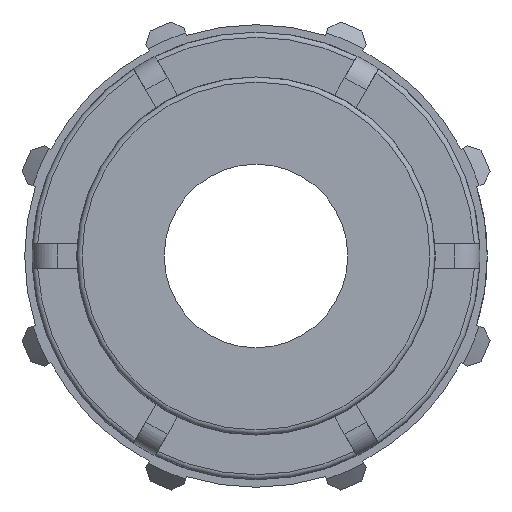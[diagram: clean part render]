
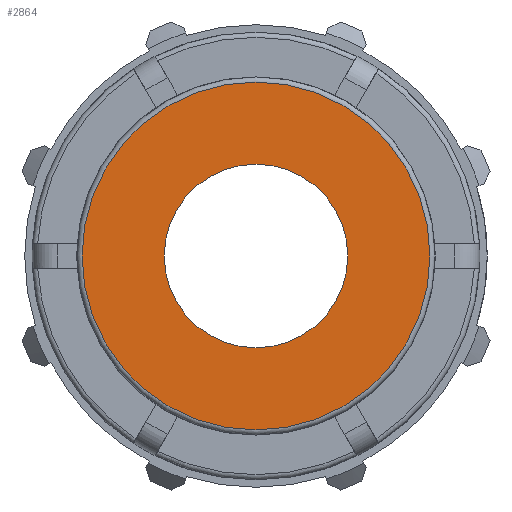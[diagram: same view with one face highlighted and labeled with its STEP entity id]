
A CAD part, left-side view. The second image highlights one B-rep face of the part: STEP entity #2864.
In plain terms, the highlighted planar face has unit normal (-1, 0, 0).
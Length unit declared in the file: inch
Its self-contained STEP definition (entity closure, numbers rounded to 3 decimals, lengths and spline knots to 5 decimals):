
#66=FACE_BOUND('',#814,.T.);
#549=PLANE('',#3106);
#659=FACE_OUTER_BOUND('',#813,.T.);
#813=EDGE_LOOP('',(#2161,#2162));
#814=EDGE_LOOP('',(#2163,#2164));
#973=CIRCLE('',#3103,1.12965);
#974=CIRCLE('',#3104,1.12965);
#976=CIRCLE('',#3107,0.59628);
#977=CIRCLE('',#3108,0.59628);
#1224=VERTEX_POINT('',#4875);
#1225=VERTEX_POINT('',#4877);
#1226=VERTEX_POINT('',#4882);
#1227=VERTEX_POINT('',#4883);
#1570=EDGE_CURVE('',#1224,#1225,#973,.T.);
#1571=EDGE_CURVE('',#1225,#1224,#974,.T.);
#1573=EDGE_CURVE('',#1226,#1227,#976,.T.);
#1574=EDGE_CURVE('',#1227,#1226,#977,.T.);
#2161=ORIENTED_EDGE('',*,*,#1571,.F.);
#2162=ORIENTED_EDGE('',*,*,#1570,.F.);
#2163=ORIENTED_EDGE('',*,*,#1573,.T.);
#2164=ORIENTED_EDGE('',*,*,#1574,.T.);
#2864=ADVANCED_FACE('',(#659,#66),#549,.T.);
#3103=AXIS2_PLACEMENT_3D('',#4878,#3631,#3632);
#3104=AXIS2_PLACEMENT_3D('',#4879,#3633,#3634);
#3106=AXIS2_PLACEMENT_3D('',#4881,#3637,#3638);
#3107=AXIS2_PLACEMENT_3D('',#4884,#3639,#3640);
#3108=AXIS2_PLACEMENT_3D('',#4885,#3641,#3642);
#3631=DIRECTION('center_axis',(1.,0.,0.));
#3632=DIRECTION('ref_axis',(0.,-1.,0.));
#3633=DIRECTION('center_axis',(1.,0.,0.));
#3634=DIRECTION('ref_axis',(0.,-1.,0.));
#3637=DIRECTION('center_axis',(-1.,0.,0.));
#3638=DIRECTION('ref_axis',(0.,0.,1.));
#3639=DIRECTION('center_axis',(1.,0.,0.));
#3640=DIRECTION('ref_axis',(0.,0.,-1.));
#3641=DIRECTION('center_axis',(1.,0.,0.));
#3642=DIRECTION('ref_axis',(0.,0.,-1.));
#4875=CARTESIAN_POINT('',(0.,0.,1.12965));
#4877=CARTESIAN_POINT('',(0.,1.12965,0.));
#4878=CARTESIAN_POINT('Origin',(0.,0.,0.));
#4879=CARTESIAN_POINT('Origin',(0.,0.,0.));
#4881=CARTESIAN_POINT('Origin',(0.,1.1628,0.));
#4882=CARTESIAN_POINT('',(0.,0.59628,0.));
#4883=CARTESIAN_POINT('',(0.,-0.59628,0.));
#4884=CARTESIAN_POINT('Origin',(0.,0.,0.));
#4885=CARTESIAN_POINT('Origin',(0.,0.,0.));
